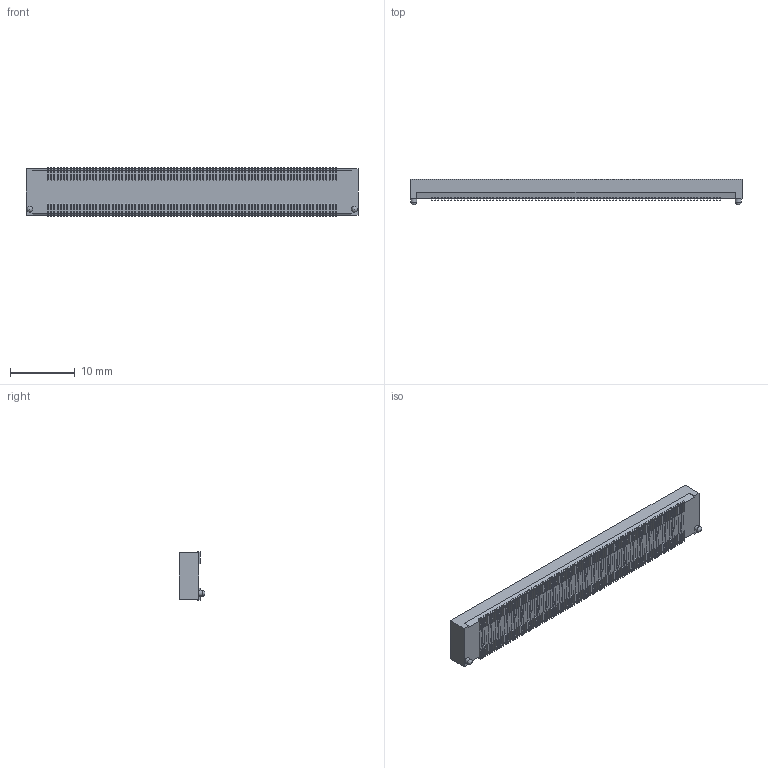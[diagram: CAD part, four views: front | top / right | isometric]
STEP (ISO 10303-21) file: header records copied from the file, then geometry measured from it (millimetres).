
FILE_DESCRIPTION( ( 'STEP AP214' ), '1' );
FILE_NAME( 'p:/temp/worker_38/temp/app_90_02019020110242347808458192d056f_000000_00_00_000000/format_0/BSH-090-01-F-D-A.stp', '2019-02-01T09:24:29', ( '' ), ( '' ), ' ', 'PARTsolutions', ' ' );
FILE_SCHEMA( ( 'AUTOMOTIVE_DESIGN { 1 0 10303 214 1 1 1 1 }' ) );
Length unit declared in the file: inch
Products named in the file (3): BSH-090-01-F-D-A; _BSH-090-01-D-A_socket; _C-126-090-01
Assembly tree (2 placements, depth 2):
  BSH-090-01-F-D-A
    _BSH-090-01-D-A_socket
    _C-126-090-01
Bounding box: 51.28 x 4 x 7.49 mm (x, y, z)
Volume: 772.6 mm3; surface area: 3011.7 mm2
Topology: 2 solids, 2 shells, 2928 faces, 8576 edges, 5478 vertices
Faces by surface type: plane 2924, cylinder 2, bspline 2
Full cylindrical faces by diameter (mm): 0.889 x2
Entity records: 117924 total; most frequent: ORIENTED_EDGE 17140, CARTESIAN_POINT 17031, DIRECTION 14434, EDGE_CURVE 8570, LINE 8564, VECTOR 8564, VERTEX_POINT 5476, EDGE_LOOP 2936
